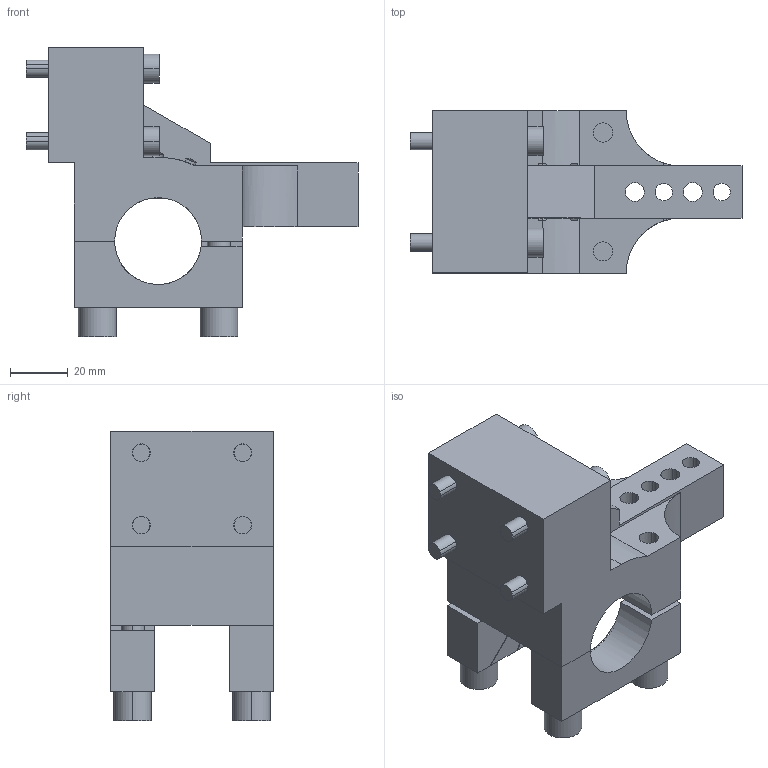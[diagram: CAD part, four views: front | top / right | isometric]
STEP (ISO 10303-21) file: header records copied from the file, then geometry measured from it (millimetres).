
FILE_DESCRIPTION(('STEP AP214'),'1');
FILE_NAME('EGT173_1705131_RD30_K40_VLR.CATPart.stp','2015-09-14T13:10:49',('3D-Tool'),(' '),'Spatial InterOp 3D',' ',' ');
FILE_SCHEMA(('automotive_design'));
Length unit declared in the file: millimetre
Products named in the file (11): EGT173_1705131_RD30_K40_VLR|EGT173_RD30_K40_VLR|Bohrbearbeitung; EGT173_1705131_RD30_K40_VLR|EGT205_SCHELLE_RD30_1|Assemble.75; EGT173_1705131_RD30_K40_VLR|EGT205_SCHELLE_RD30_2|Assemble.76; 1; 2; 3; 4; 5; 6; 7; 8
Bounding box: 114.6 x 56 x 100.1 mm (x, y, z)
Volume: 193204.6 mm3; surface area: 55975.1 mm2
Topology: 11 solids, 12 shells, 491 faces, 1291 edges, 790 vertices
Faces by surface type: plane 222, cylinder 193, cone 76
Entity records: 19903 total; most frequent: CARTESIAN_POINT 3914, ORIENTED_EDGE 2462, DIRECTION 2461, EDGE_CURVE 1231, AXIS2_PLACEMENT_3D 885, VERTEX_POINT 790, LINE 691, VECTOR 691
